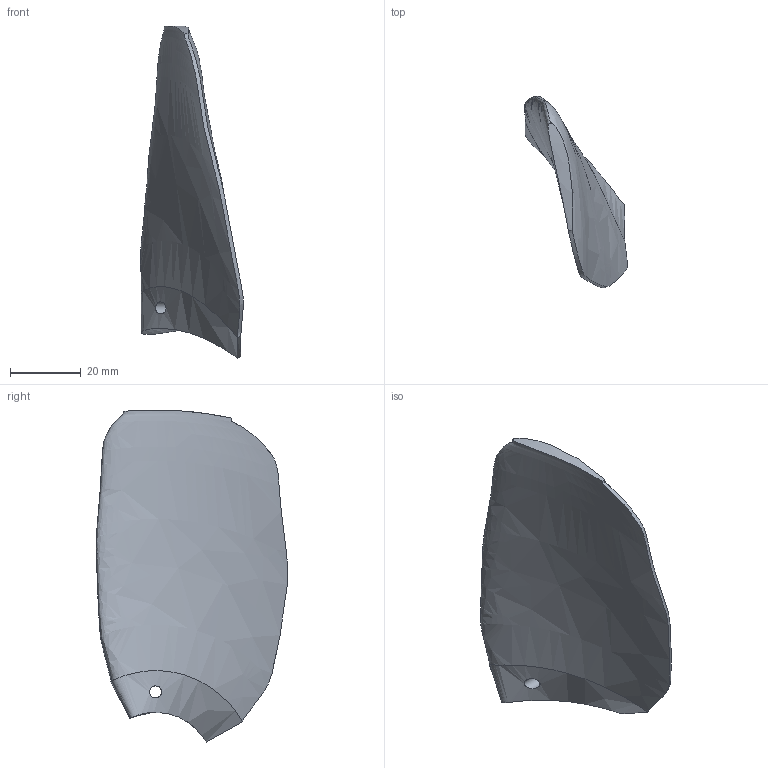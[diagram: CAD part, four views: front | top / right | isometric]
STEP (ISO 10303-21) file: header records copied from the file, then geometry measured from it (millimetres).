
FILE_DESCRIPTION(('Open CASCADE Model'),'2;1');
FILE_NAME('Open CASCADE Shape Model','2026-11-02T23:22:39',('Author'),( 'Open CASCADE'),'Open CASCADE STEP processor 7.9','Open CASCADE 7.9' ,'Unknown');
FILE_SCHEMA(('AUTOMOTIVE_DESIGN { 1 0 10303 214 1 1 1 1 }'));
Length unit declared in the file: millimetre
Products named in the file (1): Open CASCADE STEP translator 7.9 4
Bounding box: 29.12 x 54.13 x 93.74 mm (x, y, z)
Volume: 24705.6 mm3; surface area: 9961.1 mm2
Topology: 1 solids, 1 shells, 9 faces, 18 edges, 11 vertices
Faces by surface type: bspline 8, cylinder 1
Full cylindrical faces by diameter (mm): 3.4 x1
Entity records: 7280 total; most frequent: CARTESIAN_POINT 6975, ORIENTED_EDGE 36, PCURVE 36, DEFINITIONAL_REPRESENTATION 36, B_SPLINE_CURVE_WITH_KNOTS 30, DIRECTION 25, LINE 21, VECTOR 21
